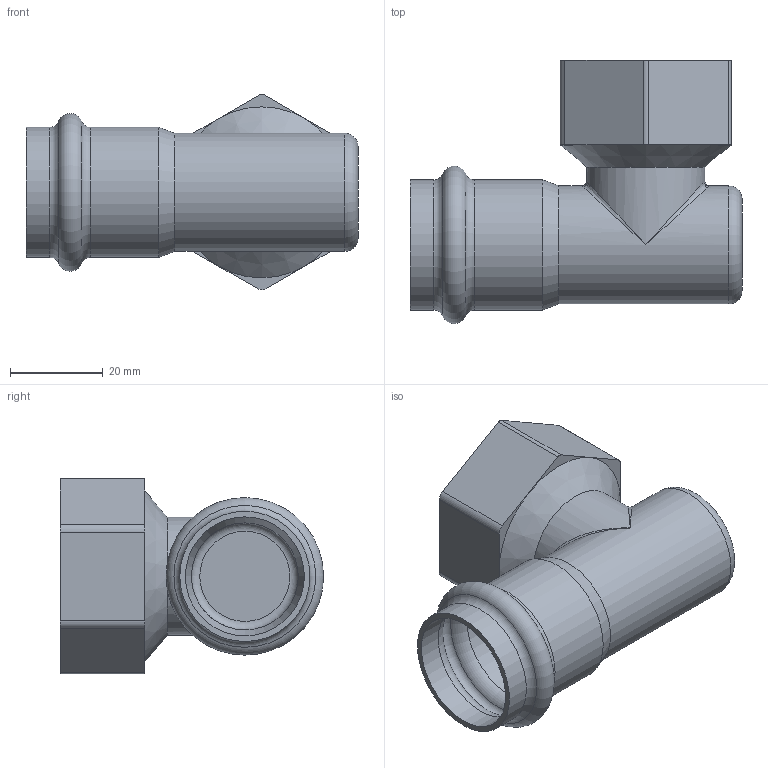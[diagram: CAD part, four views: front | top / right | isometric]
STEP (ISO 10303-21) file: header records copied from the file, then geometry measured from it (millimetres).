
FILE_DESCRIPTION(/* description */ (''),/* implementation_level */ '2;1');
FILE_NAME(/* name */ '51269020201.stp',/* time_stamp */ '2020-06-22T14:55:55+08:00',/* author */ (''),/* organization */ (''),/* preprocessor_version */ 'ST-DEVELOPER v11',/* originating_system */ 'SIEMENS PLM Software NX 7.5',/* authorisation */ '');
FILE_SCHEMA (('CONFIG_CONTROL_DESIGN'));
Length unit declared in the file: millimetre
Products named in the file (1): Admi4F60b4a0
Bounding box: 71.4 x 56.62 x 42.03 mm (x, y, z)
Volume: 17069.2 mm3; surface area: 18720.7 mm2
Topology: 1 solids, 1 shells, 42 faces, 96 edges, 53 vertices
Faces by surface type: cylinder 14, plane 13, torus 8, cone 5, bspline 2
Full cylindrical faces by diameter (mm): 23 x1, 23.4 x1, 25.4 x2, 25.6 x2, 28 x2, 30.3 x1
Entity records: 1233 total; most frequent: CARTESIAN_POINT 310, DIRECTION 187, ORIENTED_EDGE 134, AXIS2_PLACEMENT_3D 81, EDGE_LOOP 69, EDGE_CURVE 67, FACE_BOUND 52, VERTEX_POINT 52
